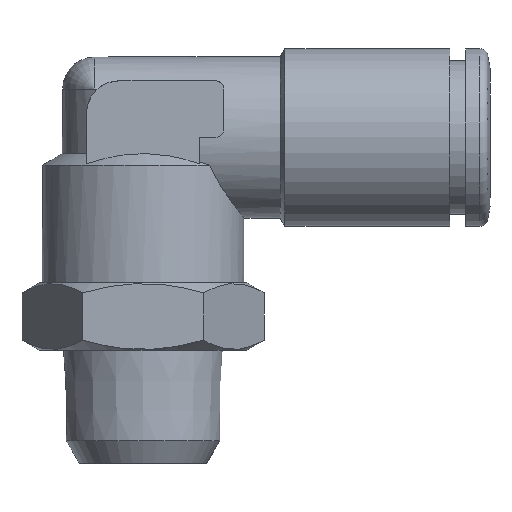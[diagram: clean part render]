
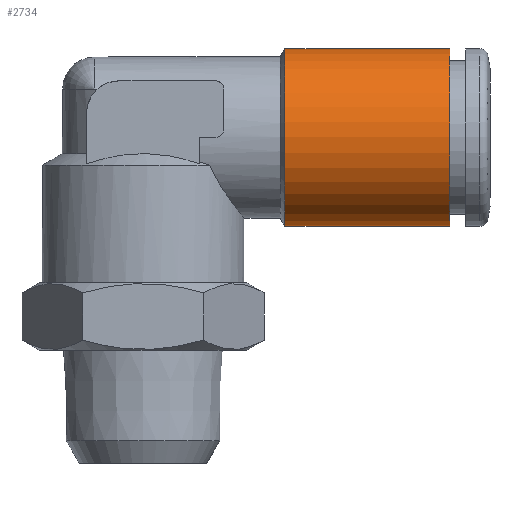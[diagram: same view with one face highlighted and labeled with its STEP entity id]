
A CAD part, front view. The second image highlights one B-rep face of the part: STEP entity #2734.
In plain terms, the highlighted cylindrical face has radius 5.5 mm (diameter 11 mm), a full revolution.
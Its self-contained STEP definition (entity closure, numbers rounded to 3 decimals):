
#1398=CYLINDRICAL_SURFACE('',#2596,5.5);
#1538=ORIENTED_EDGE('',*,*,#1891,.F.);
#1539=ORIENTED_EDGE('',*,*,#1890,.T.);
#1696=CIRCLE('',#2595,5.5);
#1697=CIRCLE('',#2597,5.5);
#1785=VERTEX_POINT('',#4055);
#1786=VERTEX_POINT('',#4058);
#1890=EDGE_CURVE('',#1785,#1785,#1696,.T.);
#1891=EDGE_CURVE('',#1786,#1786,#1697,.T.);
#1990=EDGE_LOOP('',(#1538));
#1991=EDGE_LOOP('',(#1539));
#2107=FACE_BOUND('',#1990,.T.);
#2108=FACE_BOUND('',#1991,.T.);
#2335=DIRECTION('',(1.,0.,0.));
#2336=DIRECTION('',(0.,5.5,0.));
#2337=DIRECTION('',(-1.,0.,0.));
#2338=DIRECTION('',(0.,1.,0.));
#2339=DIRECTION('',(1.,0.,0.));
#2340=DIRECTION('',(0.,5.5,0.));
#2595=AXIS2_PLACEMENT_3D('',#4056,#2335,#2336);
#2596=AXIS2_PLACEMENT_3D('',#4057,#2337,#2338);
#2597=AXIS2_PLACEMENT_3D('',#4059,#2339,#2340);
#2734=ADVANCED_FACE('',(#2107,#2108),#1398,.T.);
#4055=CARTESIAN_POINT('',(33.365,34.453,0.));
#4056=CARTESIAN_POINT('',(33.365,28.953,0.));
#4057=CARTESIAN_POINT('',(43.576,28.953,0.));
#4058=CARTESIAN_POINT('',(43.576,34.453,0.));
#4059=CARTESIAN_POINT('',(43.576,28.953,0.));
